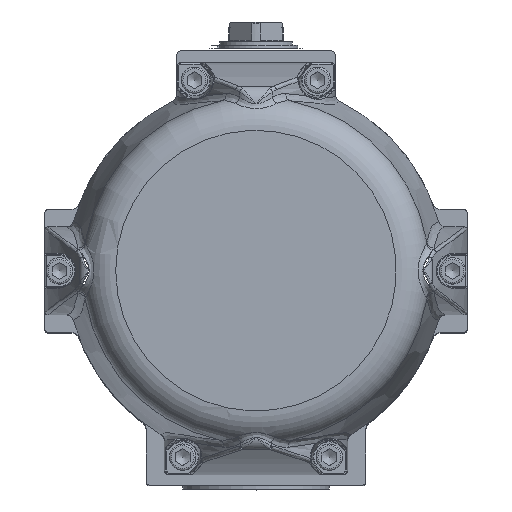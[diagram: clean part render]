
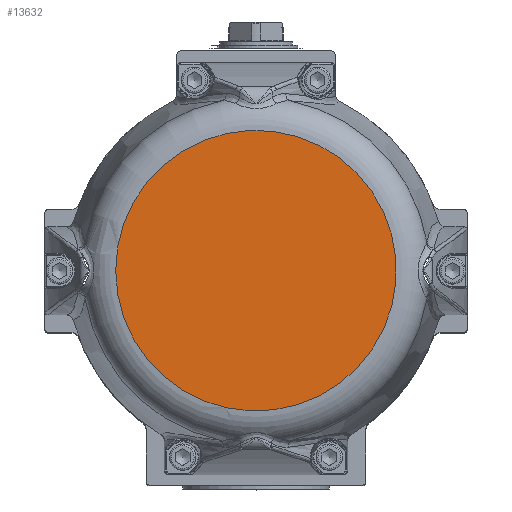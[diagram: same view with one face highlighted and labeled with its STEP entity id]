
A CAD part, top view. The second image highlights one B-rep face of the part: STEP entity #13632.
In plain terms, the highlighted planar face has unit normal (0, 0, 1).
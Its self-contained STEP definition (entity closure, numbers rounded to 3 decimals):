
#9631=CARTESIAN_POINT('',(-95.678,0.,284.1));
#9632=VERTEX_POINT('',#9631);
#9633=CARTESIAN_POINT('',(0.,0.,284.1));
#9634=DIRECTION('',(0.0,0.0,-1.0));
#9635=DIRECTION('',(-1.0,0.0,0.0));
#9636=AXIS2_PLACEMENT_3D('',#9633,#9634,#9635);
#9637=CIRCLE('',#9636,95.678);
#9638=EDGE_CURVE('',#9632,#9632,#9637,.T.);
#13624=CARTESIAN_POINT('',(-47.839,0.,284.1));
#13625=DIRECTION('',(0.0,0.0,1.0));
#13626=DIRECTION('',(0.0,-1.0,0.0));
#13627=AXIS2_PLACEMENT_3D('',#13624,#13625,#13626);
#13628=PLANE('',#13627);
#13629=ORIENTED_EDGE('',*,*,#9638,.F.);
#13630=EDGE_LOOP('',(#13629));
#13631=FACE_OUTER_BOUND('',#13630,.T.);
#13632=ADVANCED_FACE('',(#13631),#13628,.T.);
